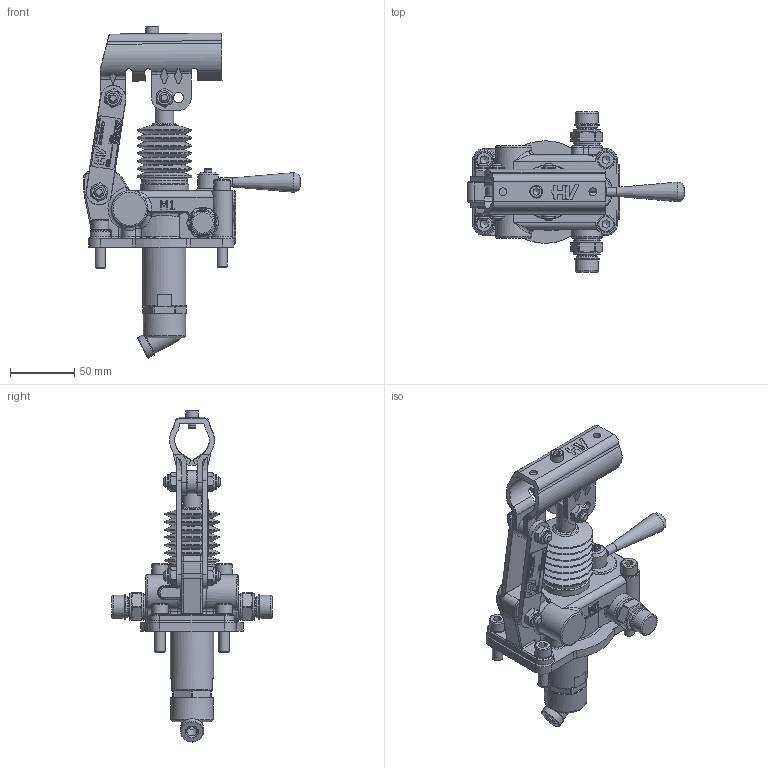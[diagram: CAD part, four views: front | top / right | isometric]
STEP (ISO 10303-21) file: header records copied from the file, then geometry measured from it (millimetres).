
FILE_DESCRIPTION((''),'2;1');
FILE_NAME('G:\HV_HYDRAULIC\AZIENDA_HV_HYDRAULIC\ARCHIVIO_DISEGNI\5_PRODOTTI_FINITI\1_POMPE_MANUALI\6055_PMD_12\6055.0045_PMD_12_cc-s_(HV)\6055.0045.stp','2024-02-29T15:45:07',('christian.scardovi'),(''),'Autodesk Inventor 2013','Autodesk Inventor 2013','');
FILE_SCHEMA(('AUTOMOTIVE_DESIGN { 1 0 10303 214 1 1 1 1 }'));
Length unit declared in the file: millimetre
Products named in the file (1): 6055.0045
Bounding box: 169 x 125 x 258.81 mm (x, y, z)
Volume: 478197.5 mm3; surface area: 115873.9 mm2
Topology: 3 solids, 3 shells, 1470 faces, 3705 edges, 2350 vertices
Faces by surface type: plane 734, cylinder 304, bspline 184, cone 123, torus 112, sphere 13
Full cylindrical faces by diameter (mm): 4 x1, 4.917 x1, 5 x2, 6 x7, 6.5 x1, 7 x1, 8 x15, 9 x1, 9.2 x1, 10 x3, 10.376 x1, 11.05 x6, 12 x5, 13 x4, 13.2 x1, 14 x4, 14.5 x1, 14.6 x1, 15 x1, 15.9 x2, 16 x5, 16.6 x2, 18 x6, 19 x2, 20 x4, 21 x6, 22 x1, 24 x1, 26.5 x1, 28 x2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
Entity records: 45965 total; most frequent: CARTESIAN_POINT 11744, ORIENTED_EDGE 6804, DIRECTION 6277, EDGE_CURVE 3402, VERTEX_POINT 2278, AXIS2_PLACEMENT_3D 2202, VECTOR 1873, LINE 1873
